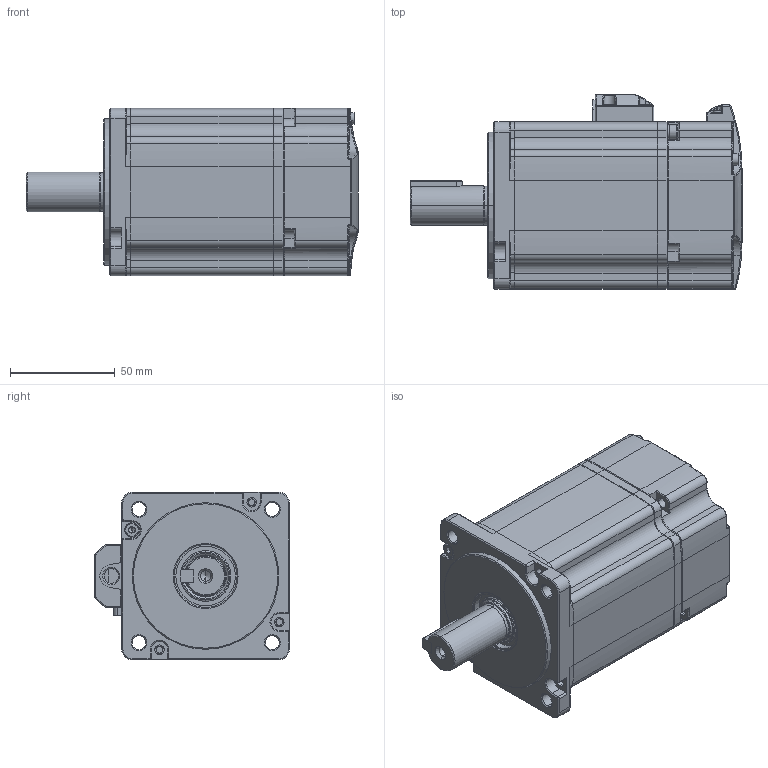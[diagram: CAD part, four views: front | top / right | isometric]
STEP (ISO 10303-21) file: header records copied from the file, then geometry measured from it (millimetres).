
FILE_DESCRIPTION (( 'STEP AP203' ), '1' );
FILE_NAME ('EM3J-08AT（非抱闸）.STEP', '2023-11-17T07:22:26', ( '' ), ( '' ), 'SwSTEP 2.0', 'SolidWorks 2018', '' );
FILE_SCHEMA (( 'CONFIG_CONTROL_DESIGN' ));
Products named in the file (1): EM3J-08AT（非抱闸）
Bounding box: 158.5 x 93 x 80 mm (x, y, z)
Volume: 303870.9 mm3; surface area: 149213.1 mm2
Topology: 24 solids, 24 shells, 1939 faces, 4768 edges, 2883 vertices
Faces by surface type: cylinder 621, plane 600, cone 260, torus 221, bspline 150, sphere 87
Entity records: 62941 total; most frequent: CARTESIAN_POINT 17172, DIRECTION 9920, ORIENTED_EDGE 9436, EDGE_CURVE 4718, AXIS2_PLACEMENT_3D 3897, VERTEX_POINT 2882, VECTOR 2126, LINE 2126
